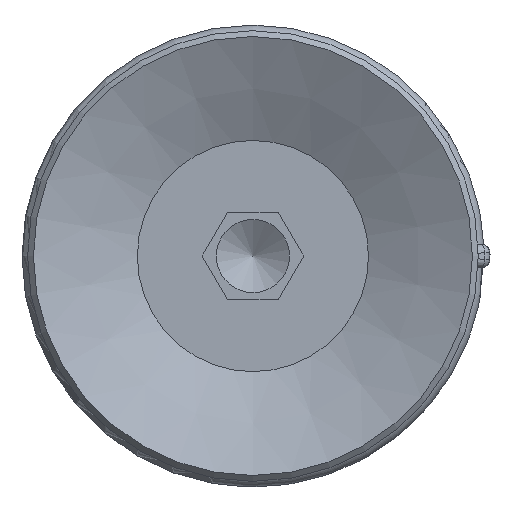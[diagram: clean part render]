
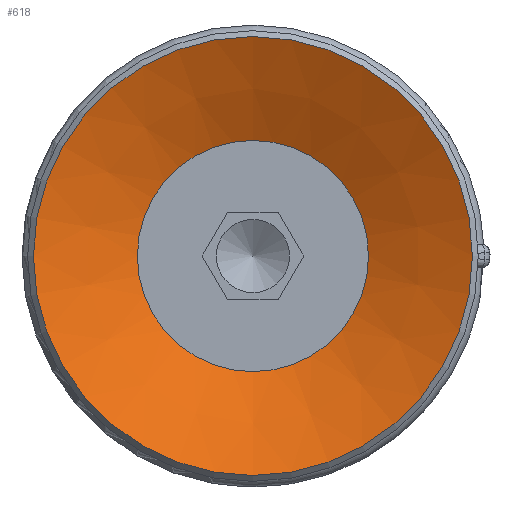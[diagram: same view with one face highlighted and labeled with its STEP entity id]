
A CAD part, front view. The second image highlights one B-rep face of the part: STEP entity #618.
In plain terms, the highlighted conical face has half-angle 64 degrees and reference radius 3.95 mm.
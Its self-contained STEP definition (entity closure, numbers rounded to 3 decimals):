
#618=ADVANCED_FACE('',(#934,#935),#936,.F.);
#934=FACE_BOUND('',#1389,.T.);
#935=FACE_OUTER_BOUND('',#1390,.T.);
#936=CONICAL_SURFACE('',#1391,3.95,1.117);
#1389=EDGE_LOOP('',(#2558));
#1390=EDGE_LOOP('',(#2559));
#1391=AXIS2_PLACEMENT_3D('',#2560,#2561,#2562);
#2558=ORIENTED_EDGE('',*,*,#3184,.F.);
#2559=ORIENTED_EDGE('',*,*,#3185,.T.);
#2560=CARTESIAN_POINT('',(0.0,-29.404,-47.168));
#2561=DIRECTION('',(-0.0,0.,1.0));
#2562=DIRECTION('',(0.0,-1.0,0.));
#3184=EDGE_CURVE('',#3644,#3644,#3645,.T.);
#3185=EDGE_CURVE('',#3646,#3646,#3647,.T.);
#3644=VERTEX_POINT('',#4774);
#3645=CIRCLE('',#4775,3.95);
#3646=VERTEX_POINT('',#4776);
#3647=CIRCLE('',#4777,7.5);
#4774=CARTESIAN_POINT('',(0.0,-33.354,-47.168));
#4775=AXIS2_PLACEMENT_3D('',#5602,#5603,#5604);
#4776=CARTESIAN_POINT('',(0.0,-36.904,-45.437));
#4777=AXIS2_PLACEMENT_3D('',#5605,#5606,#5607);
#5602=CARTESIAN_POINT('',(0.0,-29.404,-47.168));
#5603=DIRECTION('',(0.0,0.,1.0));
#5604=DIRECTION('',(0.0,-1.0,0.));
#5605=CARTESIAN_POINT('',(0.0,-29.404,-45.437));
#5606=DIRECTION('',(0.0,0.,1.0));
#5607=DIRECTION('',(0.0,-1.0,0.));
